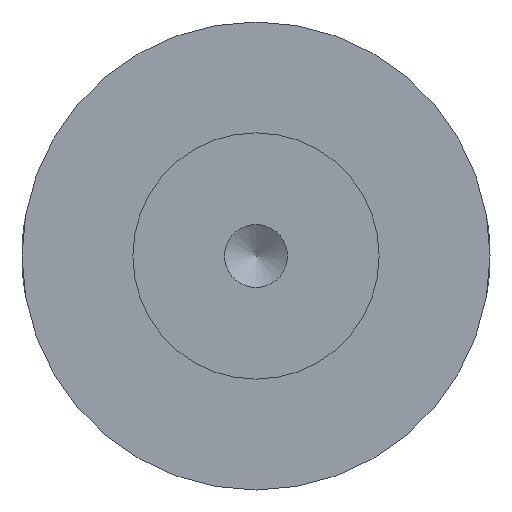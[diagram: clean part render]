
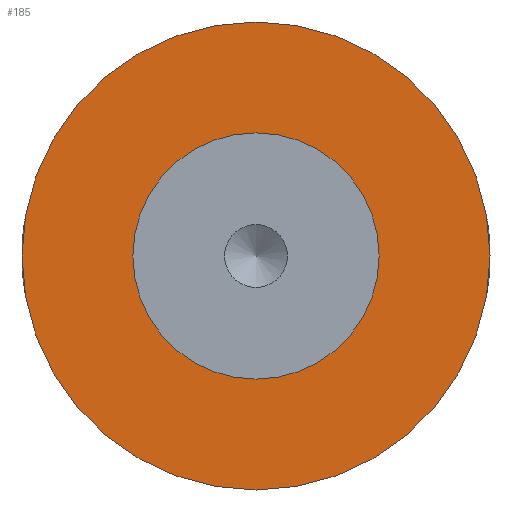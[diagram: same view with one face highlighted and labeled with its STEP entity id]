
A CAD part, front view. The second image highlights one B-rep face of the part: STEP entity #185.
In plain terms, the highlighted planar face has unit normal (0, -1, 0).
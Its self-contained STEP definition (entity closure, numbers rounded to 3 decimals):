
#33 = DIRECTION ( 'NONE',  ( 0., 0., -1. ) ) ;
#34 = DIRECTION ( 'NONE',  ( 0., -1., 0. ) ) ;
#35 = CARTESIAN_POINT ( 'NONE',  ( 0., -250., 0. ) ) ;
#40 = DIRECTION ( 'NONE',  ( 0., 0., 1. ) ) ;
#41 = DIRECTION ( 'NONE',  ( 0., 1., 0. ) ) ;
#43 = PLANE ( 'NONE',  #409 ) ;
#45 = CARTESIAN_POINT ( 'NONE',  ( 0., -250., 0. ) ) ;
#93 = CARTESIAN_POINT ( 'NONE',  ( 0., -250., 19. ) ) ;
#185 = ADVANCED_FACE ( 'NONE', ( #262, #263 ), #43, .F. ) ;
#230 = VERTEX_POINT ( 'NONE', #93 ) ;
#248 = CIRCLE ( 'NONE', #410, 10. ) ;
#255 = CIRCLE ( 'NONE', #400, 19. ) ;
#257 = VERTEX_POINT ( 'NONE', #348 ) ;
#262 = FACE_BOUND ( 'NONE', #313, .T. ) ;
#263 = FACE_OUTER_BOUND ( 'NONE', #312, .T. ) ;
#299 = ORIENTED_EDGE ( 'NONE', *, *, #428, .F. ) ;
#300 = ORIENTED_EDGE ( 'NONE', *, *, #421, .F. ) ;
#312 = EDGE_LOOP ( 'NONE', ( #299 ) ) ;
#313 = EDGE_LOOP ( 'NONE', ( #300 ) ) ;
#348 = CARTESIAN_POINT ( 'NONE',  ( 0., -250., -10. ) ) ;
#352 = DIRECTION ( 'NONE',  ( 0., 0., 1. ) ) ;
#353 = DIRECTION ( 'NONE',  ( 0., 1., 0. ) ) ;
#354 = CARTESIAN_POINT ( 'NONE',  ( 0., -250., 0. ) ) ;
#400 = AXIS2_PLACEMENT_3D ( 'NONE', #354, #353, #352 ) ;
#409 = AXIS2_PLACEMENT_3D ( 'NONE', #45, #41, #40 ) ;
#410 = AXIS2_PLACEMENT_3D ( 'NONE', #35, #34, #33 ) ;
#421 = EDGE_CURVE ( 'NONE', #257, #257, #248, .T. ) ;
#428 = EDGE_CURVE ( 'NONE', #230, #230, #255, .T. ) ;
